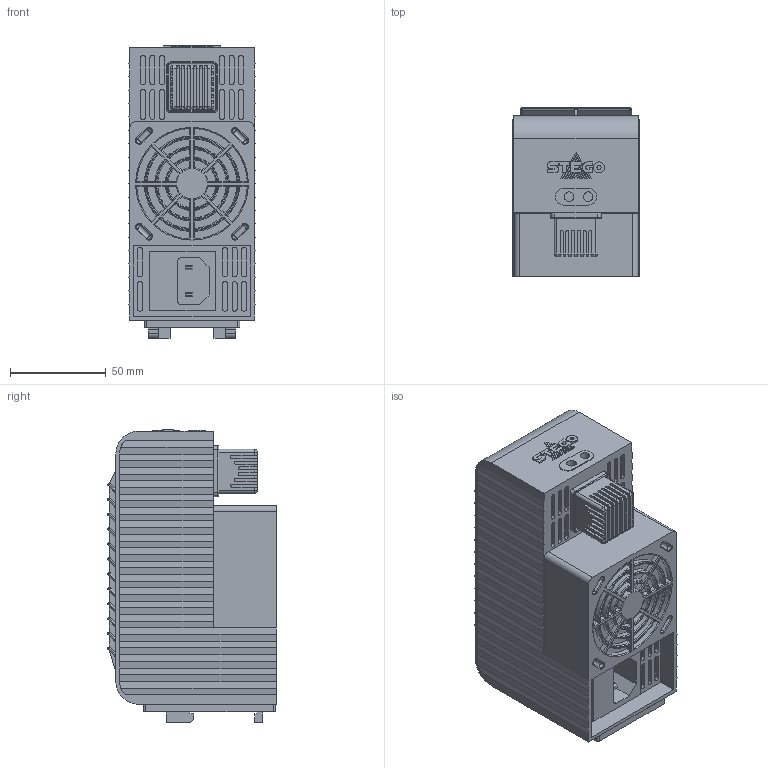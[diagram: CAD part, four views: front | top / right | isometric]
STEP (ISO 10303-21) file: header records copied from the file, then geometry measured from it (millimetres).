
FILE_DESCRIPTION (( 'STEP AP214' ), '1' );
FILE_NAME ('CSF03201.0-00_eplan_08_2013.STEP', '2013-08-22T15:15:06', ( 'Nutzer' ), ( '' ), 'SwSTEP 2.0', 'SolidWorks 2013', '' );
FILE_SCHEMA (( 'AUTOMOTIVE_DESIGN' ));
Length unit declared in the file: millimetre
Products named in the file (1): CSF03201.0-00_eplan_08_2013
Bounding box: 66 x 88.19 x 153.35 mm (x, y, z)
Volume: 687161.6 mm3; surface area: 77668.3 mm2
Topology: 1 solids, 3 shells, 1335 faces, 3380 edges, 2094 vertices
Faces by surface type: plane 755, cylinder 403, torus 84, sphere 72, bspline 21
Entity records: 41546 total; most frequent: CARTESIAN_POINT 8058, ORIENTED_EDGE 6624, DIRECTION 6505, EDGE_CURVE 3312, VECTOR 2287, LINE 2287, AXIS2_PLACEMENT_3D 2109, VERTEX_POINT 2062
